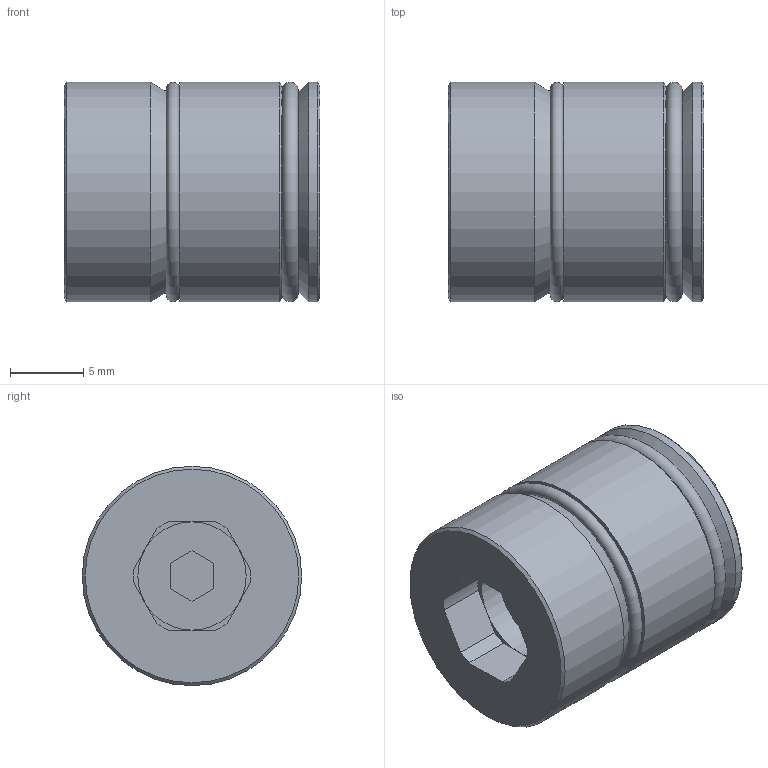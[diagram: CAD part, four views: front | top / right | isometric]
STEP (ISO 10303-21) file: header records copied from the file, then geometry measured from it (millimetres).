
FILE_DESCRIPTION( ( 'STEP AP214' ), '1' );
FILE_NAME( 'p:/temp/worker_226/temp/exporttempdir_6032_747_40hyd/format_0/TRI-15.stp', '2021-02-05T19:28:24', ( 'License CC BY-ND 4.0' ), ( 'CADENAS' ), ' ', 'PARTsolutions', ' ' );
FILE_SCHEMA( ( 'AUTOMOTIVE_DESIGN { 1 0 10303 214 1 1 1 1 }' ) );
Length unit declared in the file: millimetre
Products named in the file (1): _TRI-15
Bounding box: 17.5 x 15 x 15 mm (x, y, z)
Volume: 2785.6 mm3; surface area: 1469.6 mm2
Topology: 1 solids, 1 shells, 41 faces, 91 edges, 56 vertices
Faces by surface type: plane 24, cylinder 10, cone 5, torus 2
Full cylindrical faces by diameter (mm): 7.4 x1, 15 x3
Entity records: 1422 total; most frequent: DIRECTION 196, CARTESIAN_POINT 180, ORIENTED_EDGE 160, EDGE_CURVE 80, AXIS2_PLACEMENT_3D 74, VERTEX_POINT 58, EDGE_LOOP 56, LINE 48
